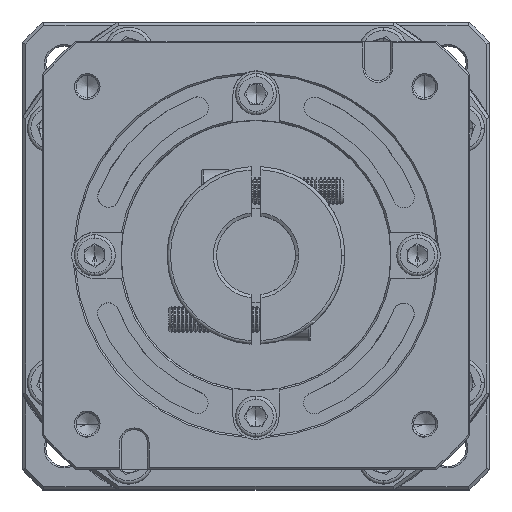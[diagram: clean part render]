
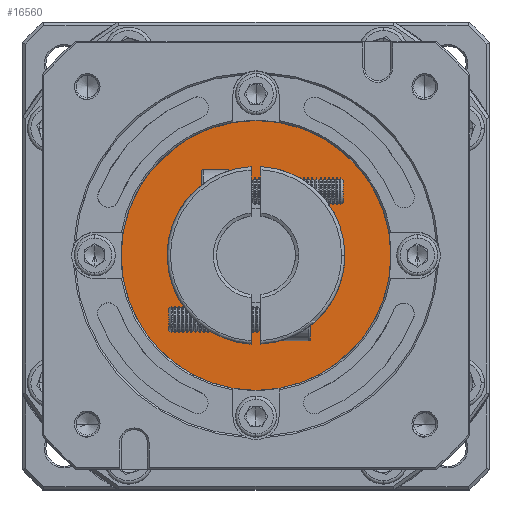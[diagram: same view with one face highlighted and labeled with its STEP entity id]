
A CAD part, top view. The second image highlights one B-rep face of the part: STEP entity #16560.
In plain terms, the highlighted planar face has unit normal (0, 0, 1).
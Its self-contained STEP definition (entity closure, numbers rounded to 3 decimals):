
#5038 = DIRECTION ( 'NONE',  ( 0., 1., 0. ) ) ;
#5125 = CARTESIAN_POINT ( 'NONE',  ( -330.369, 153.394, -40.185 ) ) ;
#5481 = DIRECTION ( 'NONE',  ( 0., 0., -1. ) ) ;
#6231 = CARTESIAN_POINT ( 'NONE',  ( -330.369, 194.394, -40.185 ) ) ;
#6444 = ORIENTED_EDGE ( 'NONE', *, *, #42639, .T. ) ;
#7072 = CARTESIAN_POINT ( 'NONE',  ( -330.369, 174.394, -40.185 ) ) ;
#8414 = CARTESIAN_POINT ( 'NONE',  ( -330.369, 214.394, -40.185 ) ) ;
#9048 = VERTEX_POINT ( 'NONE', #8414 ) ;
#16265 = DIRECTION ( 'NONE',  ( 0., 1., 0. ) ) ;
#16560 = ADVANCED_FACE ( 'NONE', ( #45710, #47276 ), #90608, .T. ) ;
#17631 = DIRECTION ( 'NONE',  ( 0., 0., 1. ) ) ;
#19176 = EDGE_LOOP ( 'NONE', ( #22478, #22326 ) ) ;
#22326 = ORIENTED_EDGE ( 'NONE', *, *, #52788, .T. ) ;
#22478 = ORIENTED_EDGE ( 'NONE', *, *, #59454, .T. ) ;
#26796 = AXIS2_PLACEMENT_3D ( 'NONE', #77566, #37246, #16265 ) ;
#28983 = AXIS2_PLACEMENT_3D ( 'NONE', #78914, #17631, #99594 ) ;
#29405 = ORIENTED_EDGE ( 'NONE', *, *, #67248, .T. ) ;
#36223 = DIRECTION ( 'NONE',  ( 0., 0., 1. ) ) ;
#37082 = DIRECTION ( 'NONE',  ( 0., 0., 1. ) ) ;
#37246 = DIRECTION ( 'NONE',  ( 0., 0., -1. ) ) ;
#40605 = EDGE_LOOP ( 'NONE', ( #6444, #29405 ) ) ;
#42639 = EDGE_CURVE ( 'NONE', #9048, #114637, #96826, .T. ) ;
#45710 = FACE_OUTER_BOUND ( 'NONE', #19176, .T. ) ;
#47276 = FACE_BOUND ( 'NONE', #40605, .T. ) ;
#47822 = VERTEX_POINT ( 'NONE', #69515 ) ;
#52788 = EDGE_CURVE ( 'NONE', #100970, #47822, #109806, .T. ) ;
#57698 = AXIS2_PLACEMENT_3D ( 'NONE', #6231, #36223, #128486 ) ;
#59454 = EDGE_CURVE ( 'NONE', #47822, #100970, #132838, .T. ) ;
#65957 = CARTESIAN_POINT ( 'NONE',  ( -330.369, 194.394, -40.185 ) ) ;
#67248 = EDGE_CURVE ( 'NONE', #114637, #9048, #72672, .T. ) ;
#69515 = CARTESIAN_POINT ( 'NONE',  ( -330.369, 235.394, -40.185 ) ) ;
#72672 = CIRCLE ( 'NONE', #26796, 20. ) ;
#77566 = CARTESIAN_POINT ( 'NONE',  ( -330.369, 194.394, -40.185 ) ) ;
#77915 = AXIS2_PLACEMENT_3D ( 'NONE', #107874, #37082, #78713 ) ;
#78713 = DIRECTION ( 'NONE',  ( 0., 1., 0. ) ) ;
#78914 = CARTESIAN_POINT ( 'NONE',  ( -330.369, 194.394, -40.185 ) ) ;
#90608 = PLANE ( 'NONE',  #28983 ) ;
#91500 = AXIS2_PLACEMENT_3D ( 'NONE', #65957, #5481, #5038 ) ;
#96826 = CIRCLE ( 'NONE', #91500, 20. ) ;
#99594 = DIRECTION ( 'NONE',  ( 0., 1., 0. ) ) ;
#100970 = VERTEX_POINT ( 'NONE', #5125 ) ;
#107874 = CARTESIAN_POINT ( 'NONE',  ( -330.369, 194.394, -40.185 ) ) ;
#109806 = CIRCLE ( 'NONE', #57698, 41. ) ;
#114637 = VERTEX_POINT ( 'NONE', #7072 ) ;
#128486 = DIRECTION ( 'NONE',  ( 0., 1., 0. ) ) ;
#132838 = CIRCLE ( 'NONE', #77915, 41. ) ;
